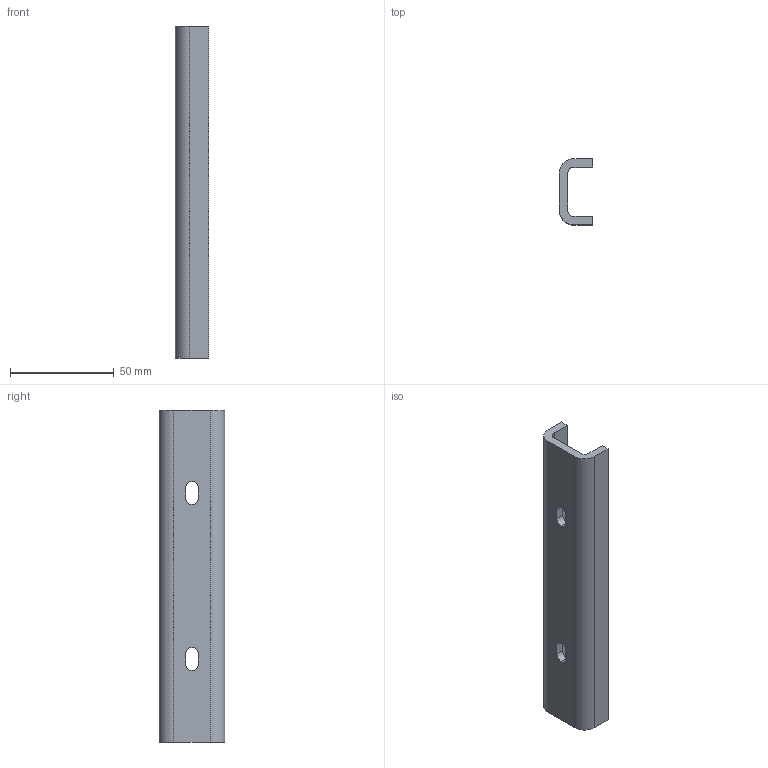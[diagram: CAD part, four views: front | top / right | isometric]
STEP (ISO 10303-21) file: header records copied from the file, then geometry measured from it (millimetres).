
FILE_DESCRIPTION (( 'STEP AP203' ), '1' );
FILE_NAME ('Default.step', '2026-01-14T13:29:40', ( '' ), ( '' ), 'SwSTEP 2.0', 'SolidWorks 2019', '' );
FILE_SCHEMA (( 'CONFIG_CONTROL_DESIGN' ));
Length unit declared in the file: millimetre
Products named in the file (1): Default
Bounding box: 16 x 31.8 x 160 mm (x, y, z)
Volume: 32498.9 mm3; surface area: 18172.3 mm2
Topology: 1 solids, 1 shells, 24 faces, 66 edges, 44 vertices
Faces by surface type: plane 14, cylinder 10
Entity records: 855 total; most frequent: DIRECTION 136, CARTESIAN_POINT 135, ORIENTED_EDGE 132, EDGE_CURVE 66, VECTOR 46, LINE 46, AXIS2_PLACEMENT_3D 45, VERTEX_POINT 44
